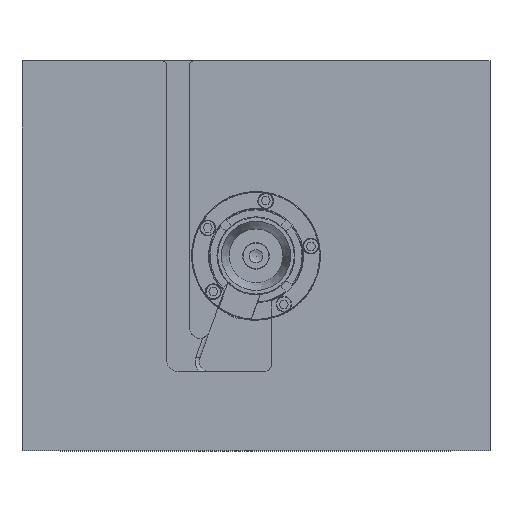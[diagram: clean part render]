
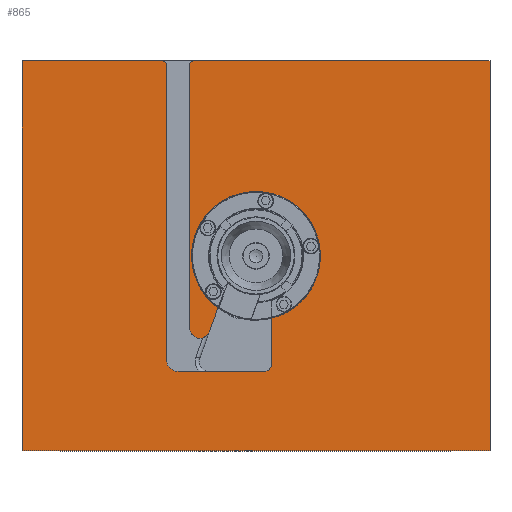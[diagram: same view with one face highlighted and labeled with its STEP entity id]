
A CAD part, top view. The second image highlights one B-rep face of the part: STEP entity #865.
In plain terms, the highlighted planar face has unit normal (0, 0, 1).
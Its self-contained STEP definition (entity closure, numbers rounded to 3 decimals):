
#865 = ADVANCED_FACE( '', ( #2211 ), #2212, .F. );
#2211 = FACE_OUTER_BOUND( '', #4554, .T. );
#2212 = PLANE( '', #4555 );
#4554 = EDGE_LOOP( '', ( #6839, #6840, #6841, #6842, #6843, #6844, #6845, #6846, #6847, #6848, #6849, #6850, #6851, #6852, #6853, #6854 ) );
#4555 = AXIS2_PLACEMENT_3D( '', #6855, #6856, #6857 );
#6839 = ORIENTED_EDGE( '', *, *, #11441, .F. );
#6840 = ORIENTED_EDGE( '', *, *, #11442, .T. );
#6841 = ORIENTED_EDGE( '', *, *, #11443, .T. );
#6842 = ORIENTED_EDGE( '', *, *, #11444, .T. );
#6843 = ORIENTED_EDGE( '', *, *, #11445, .T. );
#6844 = ORIENTED_EDGE( '', *, *, #11446, .F. );
#6845 = ORIENTED_EDGE( '', *, *, #11447, .T. );
#6846 = ORIENTED_EDGE( '', *, *, #11448, .F. );
#6847 = ORIENTED_EDGE( '', *, *, #11449, .F. );
#6848 = ORIENTED_EDGE( '', *, *, #11450, .T. );
#6849 = ORIENTED_EDGE( '', *, *, #11451, .F. );
#6850 = ORIENTED_EDGE( '', *, *, #11452, .T. );
#6851 = ORIENTED_EDGE( '', *, *, #11453, .F. );
#6852 = ORIENTED_EDGE( '', *, *, #11454, .F. );
#6853 = ORIENTED_EDGE( '', *, *, #11455, .F. );
#6854 = ORIENTED_EDGE( '', *, *, #11456, .F. );
#6855 = CARTESIAN_POINT( '', ( 300., -250., 0. ) );
#6856 = DIRECTION( '', ( 0., 0., -1. ) );
#6857 = DIRECTION( '', ( 0., -1., 0. ) );
#11441 = EDGE_CURVE( '', #13140, #13141, #13142, .T. );
#11442 = EDGE_CURVE( '', #13140, #13143, #13144, .F. );
#11443 = EDGE_CURVE( '', #13143, #13145, #13146, .T. );
#11444 = EDGE_CURVE( '', #13145, #13147, #13148, .F. );
#11445 = EDGE_CURVE( '', #13147, #13149, #13150, .F. );
#11446 = EDGE_CURVE( '', #13151, #13149, #13152, .F. );
#11447 = EDGE_CURVE( '', #13151, #13153, #13154, .F. );
#11448 = EDGE_CURVE( '', #13155, #13153, #13156, .F. );
#11449 = EDGE_CURVE( '', #13157, #13155, #13158, .T. );
#11450 = EDGE_CURVE( '', #13157, #13159, #13160, .T. );
#11451 = EDGE_CURVE( '', #13161, #13159, #13162, .F. );
#11452 = EDGE_CURVE( '', #13161, #13163, #13164, .F. );
#11453 = EDGE_CURVE( '', #13165, #13163, #13166, .T. );
#11454 = EDGE_CURVE( '', #13167, #13165, #13168, .T. );
#11455 = EDGE_CURVE( '', #13169, #13167, #13170, .T. );
#11456 = EDGE_CURVE( '', #13141, #13169, #13171, .T. );
#13140 = VERTEX_POINT( '', #15639 );
#13141 = VERTEX_POINT( '', #15640 );
#13142 = LINE( '', #15641, #15642 );
#13143 = VERTEX_POINT( '', #15643 );
#13144 = CIRCLE( '', #15644, 5. );
#13145 = VERTEX_POINT( '', #15645 );
#13146 = LINE( '', #15646, #15647 );
#13147 = VERTEX_POINT( '', #15648 );
#13148 = CIRCLE( '', #15649, 13. );
#13149 = VERTEX_POINT( '', #15650 );
#13150 = LINE( '', #15651, #15652 );
#13151 = VERTEX_POINT( '', #15653 );
#13152 = CIRCLE( '', #15654, 82.5 );
#13153 = VERTEX_POINT( '', #15655 );
#13154 = LINE( '', #15656, #15657 );
#13155 = VERTEX_POINT( '', #15658 );
#13156 = CIRCLE( '', #15659, 8.853 );
#13157 = VERTEX_POINT( '', #15660 );
#13158 = LINE( '', #15661, #15662 );
#13159 = VERTEX_POINT( '', #15663 );
#13160 = CIRCLE( '', #15664, 15. );
#13161 = VERTEX_POINT( '', #15665 );
#13162 = LINE( '', #15666, #15667 );
#13163 = VERTEX_POINT( '', #15668 );
#13164 = CIRCLE( '', #15669, 5. );
#13165 = VERTEX_POINT( '', #15670 );
#13166 = LINE( '', #15671, #15672 );
#13167 = VERTEX_POINT( '', #15673 );
#13168 = LINE( '', #15674, #15675 );
#13169 = VERTEX_POINT( '', #15676 );
#13170 = LINE( '', #15677, #15678 );
#13171 = LINE( '', #15679, #15680 );
#15639 = CARTESIAN_POINT( '', ( -80., 250., 0. ) );
#15640 = CARTESIAN_POINT( '', ( 300., 250., 0. ) );
#15641 = CARTESIAN_POINT( '', ( -300., 250., 0. ) );
#15642 = VECTOR( '', #18950, 1000. );
#15643 = CARTESIAN_POINT( '', ( -85., 245., 0. ) );
#15644 = AXIS2_PLACEMENT_3D( '', #18951, #18952, #18953 );
#15645 = CARTESIAN_POINT( '', ( -85., -92.561, 0. ) );
#15646 = CARTESIAN_POINT( '', ( -85., -250., 0. ) );
#15647 = VECTOR( '', #18954, 1000. );
#15648 = CARTESIAN_POINT( '', ( -59.784, -97.008, 0. ) );
#15649 = AXIS2_PLACEMENT_3D( '', #18955, #18956, #18957 );
#15650 = CARTESIAN_POINT( '', ( -48.711, -66.585, 0. ) );
#15651 = CARTESIAN_POINT( '', ( -66.868, -116.471, 0. ) );
#15652 = VECTOR( '', #18958, 1000. );
#15653 = CARTESIAN_POINT( '', ( 20., -80.039, 0. ) );
#15654 = AXIS2_PLACEMENT_3D( '', #18959, #18960, #18961 );
#15655 = CARTESIAN_POINT( '', ( 20., -139.147, 0. ) );
#15656 = CARTESIAN_POINT( '', ( 20., -250., 0. ) );
#15657 = VECTOR( '', #18962, 1000. );
#15658 = CARTESIAN_POINT( '', ( 11.147, -148., 0. ) );
#15659 = AXIS2_PLACEMENT_3D( '', #18963, #18964, #18965 );
#15660 = CARTESIAN_POINT( '', ( -100., -148., 0. ) );
#15661 = CARTESIAN_POINT( '', ( -60.404, -148., 0. ) );
#15662 = VECTOR( '', #18966, 1000. );
#15663 = CARTESIAN_POINT( '', ( -115., -133., 0. ) );
#15664 = AXIS2_PLACEMENT_3D( '', #18967, #18968, #18969 );
#15665 = CARTESIAN_POINT( '', ( -115., 245., 0. ) );
#15666 = CARTESIAN_POINT( '', ( -115., 260., 0. ) );
#15667 = VECTOR( '', #18970, 1000. );
#15668 = CARTESIAN_POINT( '', ( -120., 250., 0. ) );
#15669 = AXIS2_PLACEMENT_3D( '', #18971, #18972, #18973 );
#15670 = CARTESIAN_POINT( '', ( -300., 250., 0. ) );
#15671 = CARTESIAN_POINT( '', ( -300., 250., 0. ) );
#15672 = VECTOR( '', #18974, 1000. );
#15673 = CARTESIAN_POINT( '', ( -300., -250., 0. ) );
#15674 = CARTESIAN_POINT( '', ( -300., -250., 0. ) );
#15675 = VECTOR( '', #18975, 1000. );
#15676 = CARTESIAN_POINT( '', ( 300., -250., 0. ) );
#15677 = CARTESIAN_POINT( '', ( 300., -250., 0. ) );
#15678 = VECTOR( '', #18976, 1000. );
#15679 = CARTESIAN_POINT( '', ( 300., 250., 0. ) );
#15680 = VECTOR( '', #18977, 1000. );
#18950 = DIRECTION( '', ( 1., 0., 0. ) );
#18951 = CARTESIAN_POINT( '', ( -80., 245., 0. ) );
#18952 = DIRECTION( '', ( 0., 0., -1. ) );
#18953 = DIRECTION( '', ( -1., 0., 0. ) );
#18954 = DIRECTION( '', ( 0., -1., 0. ) );
#18955 = CARTESIAN_POINT( '', ( -72., -92.561, 0. ) );
#18956 = DIRECTION( '', ( 0., 0., -1. ) );
#18957 = DIRECTION( '', ( -1., 0., 0. ) );
#18958 = DIRECTION( '', ( -0.342, -0.94, 0. ) );
#18959 = CARTESIAN_POINT( '', ( 0., 0., 0. ) );
#18960 = DIRECTION( '', ( 0., 0., -1. ) );
#18961 = DIRECTION( '', ( -1., 0., 0. ) );
#18962 = DIRECTION( '', ( 0., 1., 0. ) );
#18963 = CARTESIAN_POINT( '', ( 11.147, -139.147, 0. ) );
#18964 = DIRECTION( '', ( 0., 0., -1. ) );
#18965 = DIRECTION( '', ( -1., 0., 0. ) );
#18966 = DIRECTION( '', ( 1., 0., 0. ) );
#18967 = CARTESIAN_POINT( '', ( -100., -133., 0. ) );
#18968 = DIRECTION( '', ( 0., 0., -1. ) );
#18969 = DIRECTION( '', ( -1., 0., 0. ) );
#18970 = DIRECTION( '', ( 0., 1., 0. ) );
#18971 = CARTESIAN_POINT( '', ( -120., 245., 0. ) );
#18972 = DIRECTION( '', ( 0., 0., -1. ) );
#18973 = DIRECTION( '', ( -1., 0., 0. ) );
#18974 = DIRECTION( '', ( 1., 0., 0. ) );
#18975 = DIRECTION( '', ( 0., 1., 0. ) );
#18976 = DIRECTION( '', ( -1., 0., 0. ) );
#18977 = DIRECTION( '', ( 0., -1., 0. ) );
